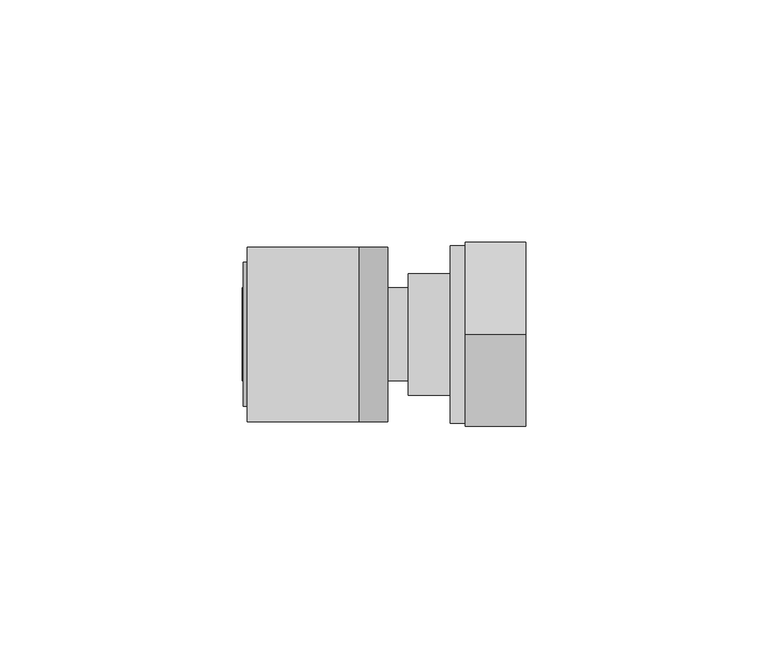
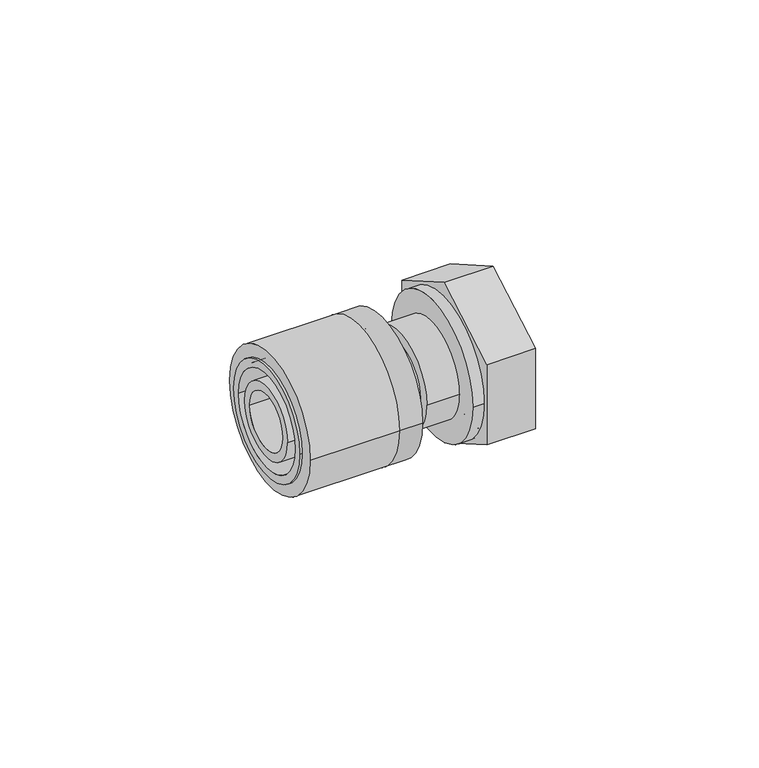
"""IFC4 building model written with IfcOpenShell, lengths in millimetres: pipe fitting geometry, FASTLOC_Adapter with union nut EX+ : FSL A union nut EX+ AT."""

from ifc_helpers import new_model, si_unit, point, frame, origin, origin_2d, place, context, project, spatial, polyline, circle_curve, trimmed, segment, composite_curve, outline, extrude, source, transform, mapped, element, save
from ifc_brep_helpers import plane_surface, cylinder_surface, revolved_surface, advanced_brep


def pipe_fitting_b7086254(model_context):
    return source(origin(), model_context, "Body", "SolidModel", [
        extrude(outline(composite_curve([segment(trimmed(circle_curve(origin_2d(), 18.0), [point((18.0, 0.0))], [point((-18.0, 0.0))], False, "CARTESIAN"), True, "CONTINUOUS"), segment(trimmed(circle_curve(origin_2d(), 18.0), [point((-18.0, 0.0))], [point((18.0, 0.0))], False, "CARTESIAN"), True, "CONTINUOUS")], self_intersect=False), holes=[composite_curve([segment(trimmed(circle_curve(origin_2d(), 13.5), [point((13.5, 0.0))], [point((-13.5, 0.0))], True, "CARTESIAN"), True, "CONTINUOUS"), segment(trimmed(circle_curve(origin_2d(), 13.5), [point((-13.5, 0.0))], [point((13.5, 0.0))], True, "CARTESIAN"), True, "CONTINUOUS")], self_intersect=False)]), frame((-33.3, 0.0, 0.0), z_axis=(1.0, 0.0, 0.0), x_axis=(0.0, 1.0, 0.0)), (0.0, 0.0, 1.0), 23.0),
        advanced_brep(
        [(-10.3, -18.0, 0.0), (-10.3, 18.0, 0.0), (-4.3, 18.0, 0.0), (-4.3, -18.0, 0.0), (-34.1, -14.85, 0.0), (-34.1, 14.85, 0.0), (-10.3, 14.85, 0.0), (-10.3, -14.85, 0.0), (-4.3, -12.65, 0.0), (-4.3, 12.65, 0.0), (-34.1, 12.65, 0.0), (-34.1, -12.65, 0.0)],
        [
            (0, 1, circle_curve(frame((-10.3, 0.0, 0.0), z_axis=(1.0, 0.0, 0.0), x_axis=(0.0, 1.0, 0.0)), 18.0)),
            (1, 2),
            (2, 3, circle_curve(frame((-4.3, 0.0, 0.0), z_axis=(-1.0, 0.0, 0.0), x_axis=(0.0, 1.0, 0.0)), 18.0)),
            (3, 0),
            (4, 5, circle_curve(frame((-34.1, 0.0, 0.0), z_axis=(1.0, 0.0, 0.0), x_axis=(0.0, 1.0, 0.0)), 14.85)),
            (5, 6),
            (6, 7, circle_curve(frame((-10.3, 0.0, 0.0), z_axis=(-1.0, 0.0, 0.0), x_axis=(0.0, 1.0, 0.0)), 14.85)),
            (7, 4),
            (8, 9, circle_curve(frame((-4.3, 0.0, 0.0), z_axis=(1.0, 0.0, 0.0), x_axis=(0.0, 1.0, 0.0)), 12.65)),
            (9, 10),
            (10, 11, circle_curve(frame((-34.1, 0.0, 0.0), z_axis=(-1.0, 0.0, 0.0), x_axis=(0.0, 1.0, 0.0)), 12.65)),
            (11, 8),
            (1, 0, circle_curve(frame((-10.3, 0.0, 0.0), z_axis=(1.0, 0.0, 0.0), x_axis=(0.0, -1.0, 0.0)), 18.0)),
            (3, 2, circle_curve(frame((-4.3, 0.0, 0.0), z_axis=(-1.0, 0.0, 0.0), x_axis=(0.0, -1.0, 0.0)), 18.0)),
            (6, 7, circle_curve(frame((-10.3, 0.0, 0.0), z_axis=(1.0, 0.0, 0.0), x_axis=(0.0, -1.0, 0.0)), 14.85)),
            (5, 4, circle_curve(frame((-34.1, 0.0, 0.0), z_axis=(1.0, 0.0, 0.0), x_axis=(0.0, -1.0, 0.0)), 14.85)),
            (10, 11, circle_curve(frame((-34.1, 0.0, 0.0), z_axis=(1.0, 0.0, 0.0), x_axis=(0.0, -1.0, 0.0)), 12.65)),
            (9, 8, circle_curve(frame((-4.3, 0.0, 0.0), z_axis=(1.0, 0.0, 0.0), x_axis=(0.0, -1.0, 0.0)), 12.65)),
        ],
        [
            cylinder_surface(frame((-4.3, 0.0, 0.0), z_axis=(-1.0, 0.0, 0.0), x_axis=(0.0, 1.0, 0.0)), 18.0),
            cylinder_surface(frame((-4.3, 0.0, 0.0), z_axis=(-1.0, 0.0, 0.0), x_axis=(0.0, 1.0, 0.0)), 14.85),
            revolved_surface(polyline([(-34.1, 12.65, 0.0), (-4.3, 12.65, 0.0)]), (-4.3, 0.0, 0.0), (-1.0, 0.0, 0.0)),
            cylinder_surface(frame((-4.3, 0.0, 0.0), z_axis=(-1.0, 0.0, 0.0), x_axis=(0.0, -1.0, 0.0)), 18.0),
            plane_surface(frame((-10.3, 0.0, 0.0), z_axis=(-1.0, 0.0, 0.0), x_axis=(0.0, -1.0, 0.0))),
            cylinder_surface(frame((-4.3, 0.0, 0.0), z_axis=(-1.0, 0.0, 0.0), x_axis=(0.0, -1.0, 0.0)), 14.85),
            plane_surface(frame((-34.1, 0.0, 0.0), z_axis=(-1.0, 0.0, 0.0), x_axis=(0.0, -1.0, 0.0))),
            revolved_surface(polyline([(-34.1, -12.65, 0.0), (-4.3, -12.65, 0.0)]), (-4.3, 0.0, 0.0), (-1.0, 0.0, 0.0)),
            plane_surface(frame((-4.3, 0.0, 0.0), z_axis=(1.0, 0.0, 0.0), x_axis=(0.0, -1.0, 0.0))),
        ],
        [
            (0, [[1, 2, 3, 4]]),
            (1, [[5, 6, 7, 8]]),
            (2, [[9, 10, 11, 12]]),
            (3, [[13, -4, 14, -2]]),
            (4, [[-13, -1], [15, -7]]),
            (5, [[16, -8, -15, -6]]),
            (6, [[-16, -5], [17, -11]]),
            (7, [[18, -12, -17, -10]]),
            (8, [[-14, -3], [-18, -9]]),
        ],
    ),
        advanced_brep(
        [(-10.3, 9.6, 0.0), (-10.3, -9.6, 0.0), (-34.3, -9.6, 0.0), (-34.3, 9.6, 0.0), (-7.5, 11.1, 0.0), (-7.5, -11.1, 0.0), (-10.3, -11.1, 0.0), (-10.3, 11.1, 0.0), (0.0, 9.6, 0.0), (0.0, -9.6, 0.0), (-7.5, -9.6, 0.0), (-7.5, 9.6, 0.0), (-34.3, 7.35, 0.0), (-34.3, -7.35, 0.0), (0.0, -7.35, 0.0), (0.0, 7.35, 0.0)],
        [
            (0, 1, circle_curve(frame((-10.3, 0.0, 0.0), z_axis=(-1.0, 0.0, 0.0), x_axis=(0.0, -1.0, 0.0)), 9.6)),
            (1, 2),
            (2, 3, circle_curve(frame((-34.3, 0.0, 0.0), z_axis=(1.0, 0.0, 0.0), x_axis=(0.0, -1.0, 0.0)), 9.6)),
            (3, 0),
            (4, 5, circle_curve(frame((-7.5, 0.0, 0.0), z_axis=(-1.0, 0.0, 0.0), x_axis=(0.0, -1.0, 0.0)), 11.1)),
            (5, 6),
            (6, 7, circle_curve(frame((-10.3, 0.0, 0.0), z_axis=(1.0, 0.0, 0.0), x_axis=(0.0, -1.0, 0.0)), 11.1)),
            (7, 4),
            (8, 9, circle_curve(frame((0.0, 0.0, 0.0), z_axis=(-1.0, 0.0, 0.0), x_axis=(0.0, -1.0, 0.0)), 9.6)),
            (9, 10),
            (10, 11, circle_curve(frame((-7.5, 0.0, 0.0), z_axis=(1.0, 0.0, 0.0), x_axis=(0.0, -1.0, 0.0)), 9.6)),
            (11, 8),
            (12, 13, circle_curve(frame((-34.3, 0.0, 0.0), z_axis=(-1.0, 0.0, 0.0), x_axis=(0.0, -1.0, 0.0)), 7.35)),
            (13, 14),
            (14, 15, circle_curve(frame((0.0, 0.0, 0.0), z_axis=(1.0, 0.0, 0.0), x_axis=(0.0, -1.0, 0.0)), 7.35)),
            (15, 12),
            (2, 3, circle_curve(frame((-34.3, 0.0, 0.0), z_axis=(-1.0, 0.0, 0.0), x_axis=(0.0, 1.0, 0.0)), 9.6)),
            (12, 13, circle_curve(frame((-34.3, 0.0, 0.0), z_axis=(1.0, 0.0, 0.0), x_axis=(0.0, 1.0, 0.0)), 7.35)),
            (1, 0, circle_curve(frame((-10.3, 0.0, 0.0), z_axis=(-1.0, 0.0, 0.0), x_axis=(0.0, 1.0, 0.0)), 9.6)),
            (6, 7, circle_curve(frame((-10.3, 0.0, 0.0), z_axis=(-1.0, 0.0, 0.0), x_axis=(0.0, 1.0, 0.0)), 11.1)),
            (5, 4, circle_curve(frame((-7.5, 0.0, 0.0), z_axis=(-1.0, 0.0, 0.0), x_axis=(0.0, 1.0, 0.0)), 11.1)),
            (10, 11, circle_curve(frame((-7.5, 0.0, 0.0), z_axis=(-1.0, 0.0, 0.0), x_axis=(0.0, 1.0, 0.0)), 9.6)),
            (9, 8, circle_curve(frame((0.0, 0.0, 0.0), z_axis=(-1.0, 0.0, 0.0), x_axis=(0.0, 1.0, 0.0)), 9.6)),
            (14, 15, circle_curve(frame((0.0, 0.0, 0.0), z_axis=(-1.0, 0.0, 0.0), x_axis=(0.0, 1.0, 0.0)), 7.35)),
        ],
        [
            cylinder_surface(frame((0.0, 0.0, 0.0), z_axis=(1.0, 0.0, 0.0), x_axis=(0.0, -1.0, 0.0)), 9.6),
            cylinder_surface(frame((0.0, 0.0, 0.0), z_axis=(1.0, 0.0, 0.0), x_axis=(0.0, -1.0, 0.0)), 11.1),
            revolved_surface(polyline([(0.0, -7.35, 0.0), (-34.3, -7.35, 0.0)]), (0.0, 0.0, 0.0), (1.0, 0.0, 0.0)),
            plane_surface(frame((-34.3, 0.0, 0.0), z_axis=(-1.0, 0.0, 0.0), x_axis=(0.0, 1.0, 0.0))),
            cylinder_surface(frame((0.0, 0.0, 0.0), z_axis=(1.0, 0.0, 0.0), x_axis=(0.0, 1.0, 0.0)), 9.6),
            plane_surface(frame((-10.3, 0.0, 0.0), z_axis=(-1.0, 0.0, 0.0), x_axis=(0.0, 1.0, 0.0))),
            cylinder_surface(frame((0.0, 0.0, 0.0), z_axis=(1.0, 0.0, 0.0), x_axis=(0.0, 1.0, 0.0)), 11.1),
            plane_surface(frame((-7.5, 0.0, 0.0), z_axis=(1.0, 0.0, 0.0), x_axis=(0.0, 1.0, 0.0))),
            plane_surface(frame((0.0, 0.0, 0.0), z_axis=(1.0, 0.0, 0.0), x_axis=(0.0, 1.0, 0.0))),
            revolved_surface(polyline([(0.0, 7.35, 0.0), (-34.3, 7.35, 0.0)]), (0.0, 0.0, 0.0), (1.0, 0.0, 0.0)),
        ],
        [
            (0, [[1, 2, 3, 4]]),
            (1, [[5, 6, 7, 8]]),
            (0, [[9, 10, 11, 12]]),
            (2, [[13, 14, 15, 16]]),
            (3, [[17, -3], [18, -13]]),
            (4, [[19, -4, -17, -2]]),
            (5, [[20, -7], [-19, -1]]),
            (6, [[21, -8, -20, -6]]),
            (7, [[-21, -5], [22, -11]]),
            (4, [[23, -12, -22, -10]]),
            (8, [[-23, -9], [24, -15]]),
            (9, [[-18, -16, -24, -14]]),
        ],
    ),
        extrude(outline(polyline([(0.0, -21.9393102), (-19.0, -10.9696551), (-19.0, 10.9696551), (0.0, 21.9393102), (19.0, 10.9696551), (19.0, -10.9696551), (0.0, -21.9393102)]), holes=[composite_curve([segment(trimmed(circle_curve(origin_2d(), 15.3), [point((-15.3, 0.0))], [point((15.3, 0.0))], True, "CARTESIAN"), True, "CONTINUOUS"), segment(trimmed(circle_curve(origin_2d(), 15.3), [point((15.3, 0.0))], [point((-15.3, 0.0))], True, "CARTESIAN"), True, "CONTINUOUS")], self_intersect=False)]), frame((11.7, 0.0, 0.0), z_axis=(1.0, 0.0, 0.0), x_axis=(0.0, 1.0, 0.0)), (0.0, 0.0, 1.0), 12.5),
        advanced_brep(
        [(24.2, 18.3, 0.0), (24.2, -18.3, 0.0), (8.6, -18.3, 0.0), (8.6, 18.3, 0.0), (12.2, 15.3, 0.0), (12.2, -15.3, 0.0), (24.2, -15.3, 0.0), (24.2, 15.3, 0.0), (8.6, 11.7, 0.0), (8.6, -11.7, 0.0), (12.2, -11.7, 0.0), (12.2, 11.7, 0.0)],
        [
            (0, 1, circle_curve(frame((24.2, 0.0, 0.0), z_axis=(-1.0, 0.0, 0.0), x_axis=(0.0, -1.0, 0.0)), 18.3)),
            (1, 2),
            (2, 3, circle_curve(frame((8.6, 0.0, 0.0), z_axis=(1.0, 0.0, 0.0), x_axis=(0.0, -1.0, 0.0)), 18.3)),
            (3, 0),
            (4, 5, circle_curve(frame((12.2, 0.0, 0.0), z_axis=(-1.0, 0.0, 0.0), x_axis=(0.0, -1.0, 0.0)), 15.3)),
            (5, 6),
            (6, 7, circle_curve(frame((24.2, 0.0, 0.0), z_axis=(1.0, 0.0, 0.0), x_axis=(0.0, -1.0, 0.0)), 15.3)),
            (7, 4),
            (8, 9, circle_curve(frame((8.6, 0.0, 0.0), z_axis=(-1.0, 0.0, 0.0), x_axis=(0.0, -1.0, 0.0)), 11.7)),
            (9, 10),
            (10, 11, circle_curve(frame((12.2, 0.0, 0.0), z_axis=(1.0, 0.0, 0.0), x_axis=(0.0, -1.0, 0.0)), 11.7)),
            (11, 8),
            (1, 0, circle_curve(frame((24.2, 0.0, 0.0), z_axis=(-1.0, 0.0, 0.0), x_axis=(0.0, 1.0, 0.0)), 18.3)),
            (3, 2, circle_curve(frame((8.6, 0.0, 0.0), z_axis=(1.0, 0.0, 0.0), x_axis=(0.0, 1.0, 0.0)), 18.3)),
            (6, 7, circle_curve(frame((24.2, 0.0, 0.0), z_axis=(-1.0, 0.0, 0.0), x_axis=(0.0, 1.0, 0.0)), 15.3)),
            (5, 4, circle_curve(frame((12.2, 0.0, 0.0), z_axis=(-1.0, 0.0, 0.0), x_axis=(0.0, 1.0, 0.0)), 15.3)),
            (10, 11, circle_curve(frame((12.2, 0.0, 0.0), z_axis=(-1.0, 0.0, 0.0), x_axis=(0.0, 1.0, 0.0)), 11.7)),
            (9, 8, circle_curve(frame((8.6, 0.0, 0.0), z_axis=(-1.0, 0.0, 0.0), x_axis=(0.0, 1.0, 0.0)), 11.7)),
        ],
        [
            cylinder_surface(frame((0.0, 0.0, 0.0), z_axis=(1.0, 0.0, 0.0), x_axis=(0.0, -1.0, 0.0)), 18.3),
            revolved_surface(polyline([(24.2, -15.3, 0.0), (12.2, -15.3, 0.0)]), (0.0, 0.0, 0.0), (1.0, 0.0, 0.0)),
            revolved_surface(polyline([(12.2, -11.7, 0.0), (8.6, -11.7, 0.0)]), (0.0, 0.0, 0.0), (1.0, 0.0, 0.0)),
            cylinder_surface(frame((0.0, 0.0, 0.0), z_axis=(1.0, 0.0, 0.0), x_axis=(0.0, 1.0, 0.0)), 18.3),
            plane_surface(frame((24.2, 0.0, 0.0), z_axis=(1.0, 0.0, 0.0), x_axis=(0.0, 1.0, 0.0))),
            revolved_surface(polyline([(24.2, 15.3, 0.0), (12.2, 15.3, 0.0)]), (0.0, 0.0, 0.0), (1.0, 0.0, 0.0)),
            plane_surface(frame((12.2, 0.0, 0.0), z_axis=(1.0, 0.0, 0.0), x_axis=(0.0, 1.0, 0.0))),
            revolved_surface(polyline([(12.2, 11.7, 0.0), (8.6, 11.7, 0.0)]), (0.0, 0.0, 0.0), (1.0, 0.0, 0.0)),
            plane_surface(frame((8.6, 0.0, 0.0), z_axis=(-1.0, 0.0, 0.0), x_axis=(0.0, 1.0, 0.0))),
        ],
        [
            (0, [[1, 2, 3, 4]]),
            (1, [[5, 6, 7, 8]]),
            (2, [[9, 10, 11, 12]]),
            (3, [[13, -4, 14, -2]]),
            (4, [[-13, -1], [15, -7]]),
            (5, [[16, -8, -15, -6]]),
            (6, [[-16, -5], [17, -11]]),
            (7, [[18, -12, -17, -10]]),
            (8, [[-14, -3], [-18, -9]]),
        ],
    ),
        advanced_brep(
        [(12.0, 12.525, 0.0), (12.0, -12.525, 0.0), (0.0, -12.525, 0.0), (0.0, 12.525, 0.0), (13.95, 16.5, 0.0), (13.95, -16.5, 0.0), (12.0, -16.5, 0.0), (12.0, 16.5, 0.0), (1.4730817, 10.5, 0.0), (1.4730817, -10.5, 0.0), (13.95, -10.5, 0.0), (13.95, 10.5, 0.0), (0.0, 8.3264556, 0.0), (0.0, -8.3264556, 0.0), (1.4730817, -8.3264556, 0.0), (1.4730817, 8.3264556, 0.0)],
        [
            (0, 1, circle_curve(frame((12.0, 0.0, 0.0), z_axis=(-1.0, 0.0, 0.0), x_axis=(0.0, -1.0, 0.0)), 12.525)),
            (1, 2),
            (2, 3, circle_curve(frame((0.0, 0.0, 0.0), z_axis=(1.0, 0.0, 0.0), x_axis=(0.0, -1.0, 0.0)), 12.525)),
            (3, 0),
            (4, 5, circle_curve(frame((13.95, 0.0, 0.0), z_axis=(-1.0, 0.0, 0.0), x_axis=(0.0, -1.0, 0.0)), 16.5)),
            (5, 6),
            (6, 7, circle_curve(frame((12.0, 0.0, 0.0), z_axis=(1.0, 0.0, 0.0), x_axis=(0.0, -1.0, 0.0)), 16.5)),
            (7, 4),
            (8, 9, circle_curve(frame((1.4730817, 0.0, 0.0), z_axis=(-1.0, 0.0, 0.0), x_axis=(0.0, -1.0, 0.0)), 10.5)),
            (9, 10),
            (10, 11, circle_curve(frame((13.95, 0.0, 0.0), z_axis=(1.0, 0.0, 0.0), x_axis=(0.0, -1.0, 0.0)), 10.5)),
            (11, 8),
            (12, 13, circle_curve(frame((0.0, 0.0, 0.0), z_axis=(-1.0, 0.0, 0.0), x_axis=(0.0, -1.0, 0.0)), 8.3264556)),
            (13, 14),
            (14, 15, circle_curve(frame((1.4730817, 0.0, 0.0), z_axis=(1.0, 0.0, 0.0), x_axis=(0.0, -1.0, 0.0)), 8.3264556)),
            (15, 12),
            (2, 3, circle_curve(frame((0.0, 0.0, 0.0), z_axis=(-1.0, 0.0, 0.0), x_axis=(0.0, 1.0, 0.0)), 12.525)),
            (12, 13, circle_curve(frame((0.0, 0.0, 0.0), z_axis=(1.0, 0.0, 0.0), x_axis=(0.0, 1.0, 0.0)), 8.3264556)),
            (1, 0, circle_curve(frame((12.0, 0.0, 0.0), z_axis=(-1.0, 0.0, 0.0), x_axis=(0.0, 1.0, 0.0)), 12.525)),
            (6, 7, circle_curve(frame((12.0, 0.0, 0.0), z_axis=(-1.0, 0.0, 0.0), x_axis=(0.0, 1.0, 0.0)), 16.5)),
            (5, 4, circle_curve(frame((13.95, 0.0, 0.0), z_axis=(-1.0, 0.0, 0.0), x_axis=(0.0, 1.0, 0.0)), 16.5)),
            (10, 11, circle_curve(frame((13.95, 0.0, 0.0), z_axis=(-1.0, 0.0, 0.0), x_axis=(0.0, 1.0, 0.0)), 10.5)),
            (9, 8, circle_curve(frame((1.4730817, 0.0, 0.0), z_axis=(-1.0, 0.0, 0.0), x_axis=(0.0, 1.0, 0.0)), 10.5)),
            (14, 15, circle_curve(frame((1.4730817, 0.0, 0.0), z_axis=(-1.0, 0.0, 0.0), x_axis=(0.0, 1.0, 0.0)), 8.3264556)),
        ],
        [
            cylinder_surface(frame((0.0, 0.0, 0.0), z_axis=(1.0, 0.0, 0.0), x_axis=(0.0, -1.0, 0.0)), 12.525),
            cylinder_surface(frame((0.0, 0.0, 0.0), z_axis=(1.0, 0.0, 0.0), x_axis=(0.0, -1.0, 0.0)), 16.5),
            revolved_surface(polyline([(13.95, -10.5, 0.0), (1.4730817, -10.5, 0.0)]), (0.0, 0.0, 0.0), (1.0, 0.0, 0.0)),
            revolved_surface(polyline([(1.4730817, -8.3264556, 0.0), (0.0, -8.3264556, 0.0)]), (0.0, 0.0, 0.0), (1.0, 0.0, 0.0)),
            plane_surface(frame((0.0, 0.0, 0.0), z_axis=(-1.0, 0.0, 0.0), x_axis=(0.0, 1.0, 0.0))),
            cylinder_surface(frame((0.0, 0.0, 0.0), z_axis=(1.0, 0.0, 0.0), x_axis=(0.0, 1.0, 0.0)), 12.525),
            plane_surface(frame((12.0, 0.0, 0.0), z_axis=(-1.0, 0.0, 0.0), x_axis=(0.0, 1.0, 0.0))),
            cylinder_surface(frame((0.0, 0.0, 0.0), z_axis=(1.0, 0.0, 0.0), x_axis=(0.0, 1.0, 0.0)), 16.5),
            plane_surface(frame((13.95, 0.0, 0.0), z_axis=(1.0, 0.0, 0.0), x_axis=(0.0, 1.0, 0.0))),
            revolved_surface(polyline([(13.95, 10.5, 0.0), (1.4730817, 10.5, 0.0)]), (0.0, 0.0, 0.0), (1.0, 0.0, 0.0)),
            plane_surface(frame((1.4730817, 0.0, 0.0), z_axis=(1.0, 0.0, 0.0), x_axis=(0.0, 1.0, 0.0))),
            revolved_surface(polyline([(1.4730817, 8.3264556, 0.0), (0.0, 8.3264556, 0.0)]), (0.0, 0.0, 0.0), (1.0, 0.0, 0.0)),
        ],
        [
            (0, [[1, 2, 3, 4]]),
            (1, [[5, 6, 7, 8]]),
            (2, [[9, 10, 11, 12]]),
            (3, [[13, 14, 15, 16]]),
            (4, [[17, -3], [18, -13]]),
            (5, [[19, -4, -17, -2]]),
            (6, [[20, -7], [-19, -1]]),
            (7, [[21, -8, -20, -6]]),
            (8, [[-21, -5], [22, -11]]),
            (9, [[23, -12, -22, -10]]),
            (10, [[-23, -9], [24, -15]]),
            (11, [[-18, -16, -24, -14]]),
        ],
    ),
    ])


if __name__ == "__main__":
    model = new_model("IFC4")
    model_context = context("Model", 3, world=origin())
    ifc_project = project(units=[si_unit("LENGTHUNIT", "METRE", prefix="MILLI")], contexts=[model_context])
    site = spatial("IfcSite", under=ifc_project)
    building = spatial("IfcBuilding", under=site)
    placement = place(None, origin())
    pipe_fitting_shape = pipe_fitting_b7086254(model_context)
    element("IfcPipeFitting", 1, ObjectType="FASTLOC_Adapter with union nut EX+ : FSL A union nut EX+ AT", at=placement, inside=building, context=model_context, shape_type="MappedRepresentation", body=[
        mapped(pipe_fitting_shape, transform((0.0, 0.0, 0.0), x_axis=(1.0, 0.0, 0.0), y_axis=(0.0, 1.0, 0.0), z_axis=(0.0, 0.0, 1.0))),
    ])
    save(model, "model.ifc")
